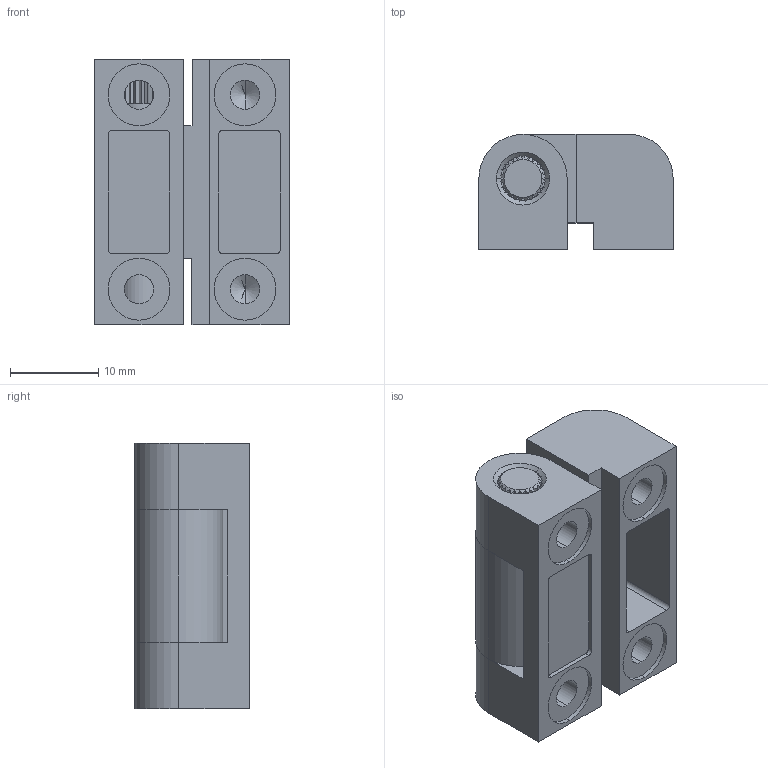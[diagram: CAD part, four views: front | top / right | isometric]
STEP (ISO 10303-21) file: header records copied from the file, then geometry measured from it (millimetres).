
FILE_DESCRIPTION (( 'STEP AP214' ), '1' );
FILE_NAME ('SK2-024-1.STEP', '2020-04-15T06:17:24', ( 'admin' ), ( 'Microsoft' ), 'SwSTEP 2.0', 'SolidWorks 2018', '' );
FILE_SCHEMA (( 'AUTOMOTIVE_DESIGN' ));
Length unit declared in the file: millimetre
Products named in the file (4): 2-024-1-F2; 2-024-1-F1; SK2-024-1; 2-024-1-F3
Assembly tree (3 placements, depth 2):
  SK2-024-1
    2-024-1-F1
    2-024-1-F2
    2-024-1-F3
Bounding box: 22 x 13 x 30 mm (x, y, z)
Volume: 6521.2 mm3; surface area: 5020.4 mm2
Topology: 3 solids, 3 shells, 180 faces, 444 edges, 274 vertices
Faces by surface type: plane 131, cylinder 37, cone 12
Entity records: 5624 total; most frequent: CARTESIAN_POINT 1140, DIRECTION 886, ORIENTED_EDGE 880, EDGE_CURVE 440, AXIS2_PLACEMENT_3D 312, VERTEX_POINT 274, LINE 262, VECTOR 262
